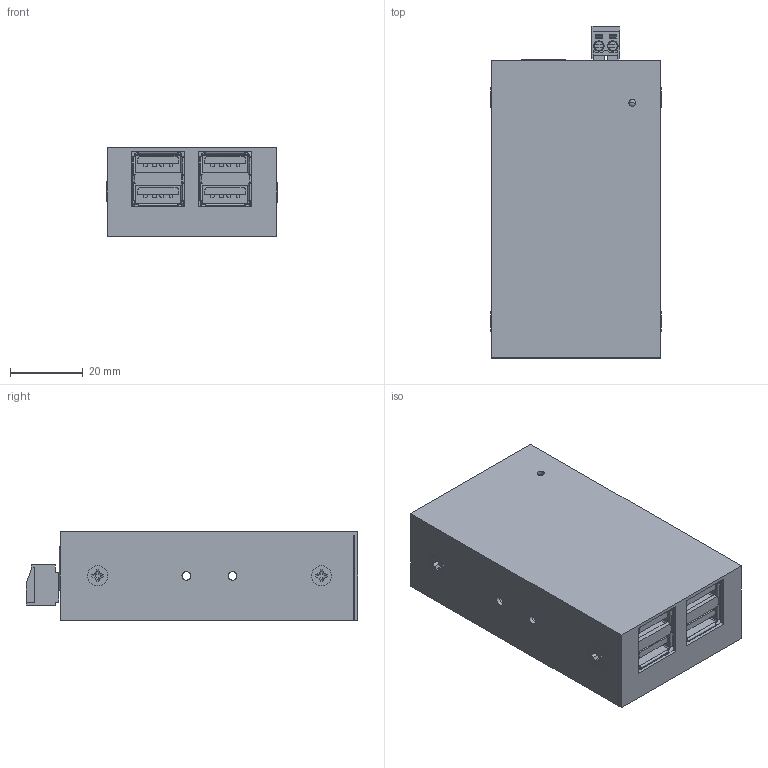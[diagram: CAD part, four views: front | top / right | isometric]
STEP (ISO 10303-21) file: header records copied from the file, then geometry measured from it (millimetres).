
FILE_DESCRIPTION(('FreeCAD Model'),'2;1');
FILE_NAME('X:/Technische Zeichnungen/EX-1181HMS/EX-1181HMS_3D.step', '2021-02-24T12:16:20',('Author'),(''), 'Open CASCADE STEP processor 7.3','FreeCAD','Unknown');
FILE_SCHEMA(('AUTOMOTIVE_DESIGN { 1 0 10303 214 1 1 1 1 }'));
Products named in the file (1): EX-1181HMS_3D
Bounding box: 46.8 x 91.1 x 24.4 mm (x, y, z)
Volume: 28614.3 mm3; surface area: 43095.1 mm2
Topology: 3 solids, 7 shells, 1987 faces, 5751 edges, 3784 vertices
Faces by surface type: plane 1389, cylinder 478, cone 69, torus 45, sphere 6
Full cylindrical faces by diameter (mm): 1.9 x1, 2.3 x4, 2.4 x4, 2.5 x6, 3.8 x4, 4 x1, 5.4 x2
Entity records: 220124 total; most frequent: CARTESIAN_POINT 98275, DIRECTION 18124, ORIENTED_EDGE 11492, PCURVE 11490, DEFINITIONAL_REPRESENTATION 11490, LINE 10989, VECTOR 10989, EDGE_CURVE 5745
